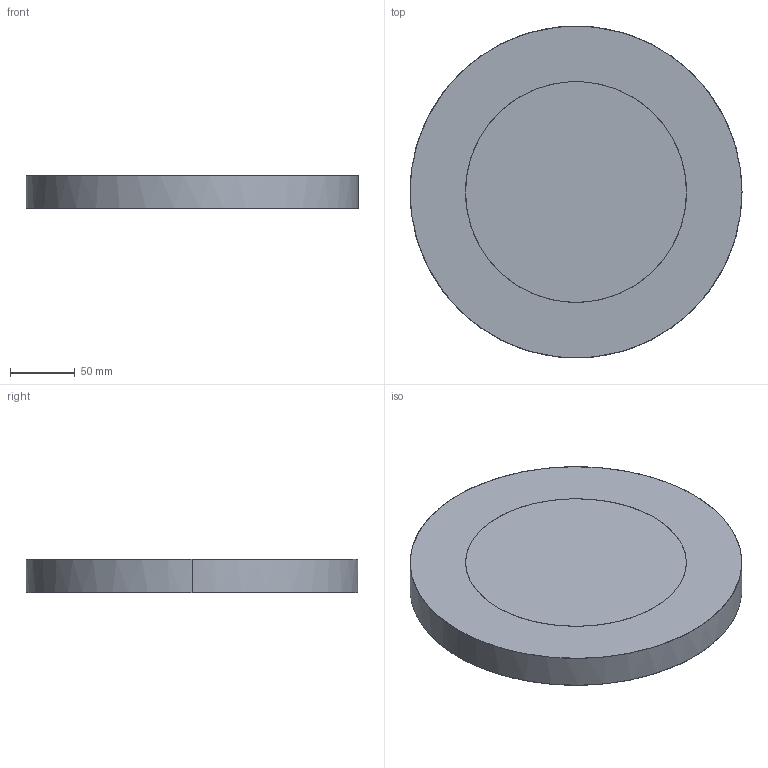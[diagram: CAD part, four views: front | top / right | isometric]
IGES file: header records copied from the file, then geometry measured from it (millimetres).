
Start section: Comment
Global section: file name: mirror_assembly.igs; native system:  By UGS Corp.; preprocessor: XPlus GENERIC/IGES 3.0; author: Author; organization: Title; date: 20090504.151831; units: millimetre
Bounding box: 255.4 x 255.07 x 25.4 mm (x, y, z)
Surface area: 150833.1 mm2 (no closed solid volume)
Topology: 0 solids, 0 shells, 13 faces, 48 edges, 48 vertices
Faces by surface type: bspline 13
